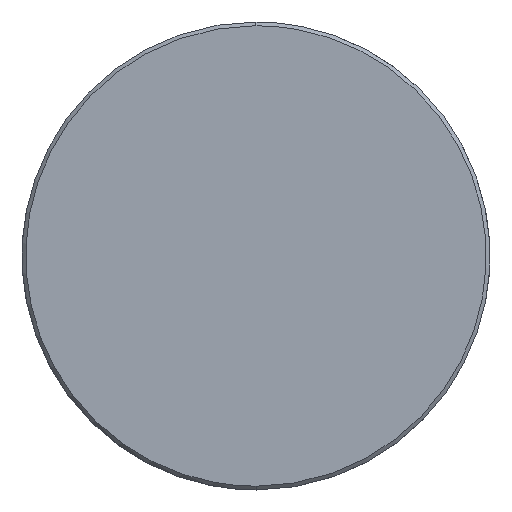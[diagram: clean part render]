
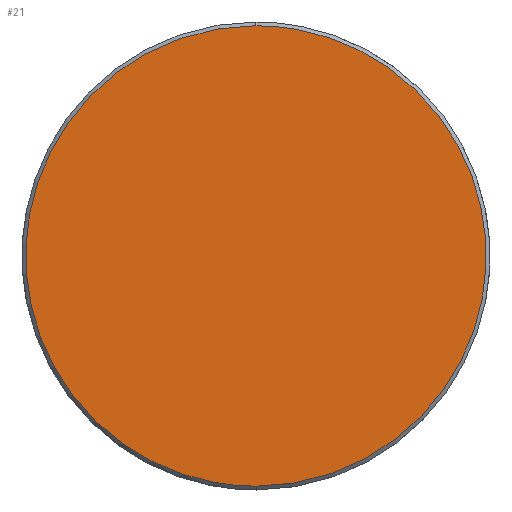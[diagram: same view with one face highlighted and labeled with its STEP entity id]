
A CAD part, top view. The second image highlights one B-rep face of the part: STEP entity #21.
In plain terms, the highlighted planar face has unit normal (0, 0, 1).
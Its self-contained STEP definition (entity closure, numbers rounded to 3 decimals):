
#21=ADVANCED_FACE('',(#53),#419,.T.);
#53=FACE_OUTER_BOUND('',#85,.T.);
#85=EDGE_LOOP('',(#117,#118));
#117=ORIENTED_EDGE('',*,*,#239,.T.);
#118=ORIENTED_EDGE('',*,*,#249,.T.);
#239=EDGE_CURVE('',#357,#364,#317,.T.);
#249=EDGE_CURVE('',#364,#357,#326,.T.);
#317=(
BOUNDED_CURVE()
B_SPLINE_CURVE(2,(#578,#579,#580,#581,#582),.UNSPECIFIED.,.F.,.F.)
B_SPLINE_CURVE_WITH_KNOTS((3,2,3),(0.,96.604,193.208),
 .UNSPECIFIED.)
CURVE()
GEOMETRIC_REPRESENTATION_ITEM()
RATIONAL_B_SPLINE_CURVE((1.,0.707,1.,0.707,1.))
REPRESENTATION_ITEM('')
);
#326=(
BOUNDED_CURVE()
B_SPLINE_CURVE(2,(#614,#615,#616,#617,#618),.UNSPECIFIED.,.F.,.F.)
B_SPLINE_CURVE_WITH_KNOTS((3,2,3),(193.208,289.811,386.415),
 .UNSPECIFIED.)
CURVE()
GEOMETRIC_REPRESENTATION_ITEM()
RATIONAL_B_SPLINE_CURVE((1.,0.707,1.,0.707,1.))
REPRESENTATION_ITEM('')
);
#357=VERTEX_POINT('',#559);
#364=VERTEX_POINT('',#566);
#419=PLANE('',#443);
#443=AXIS2_PLACEMENT_3D('',#457,#450,$);
#450=DIRECTION('',(0.,0.,1.));
#457=CARTESIAN_POINT('',(-62.73,-62.73,12.));
#559=CARTESIAN_POINT('',(0.,-61.5,12.));
#566=CARTESIAN_POINT('',(0.,61.5,12.));
#578=CARTESIAN_POINT('',(0.,-61.5,12.));
#579=CARTESIAN_POINT('',(61.5,-61.5,12.));
#580=CARTESIAN_POINT('',(61.5,0.,12.));
#581=CARTESIAN_POINT('',(61.5,61.5,12.));
#582=CARTESIAN_POINT('',(0.,61.5,12.));
#614=CARTESIAN_POINT('',(0.,61.5,12.));
#615=CARTESIAN_POINT('',(-61.5,61.5,12.));
#616=CARTESIAN_POINT('',(-61.5,0.,12.));
#617=CARTESIAN_POINT('',(-61.5,-61.5,12.));
#618=CARTESIAN_POINT('',(0.,-61.5,12.));
